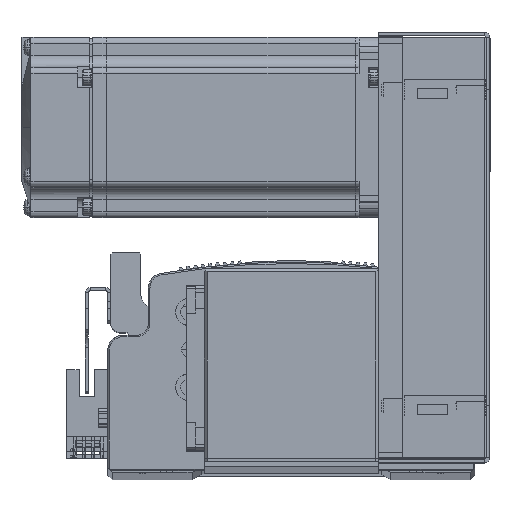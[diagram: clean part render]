
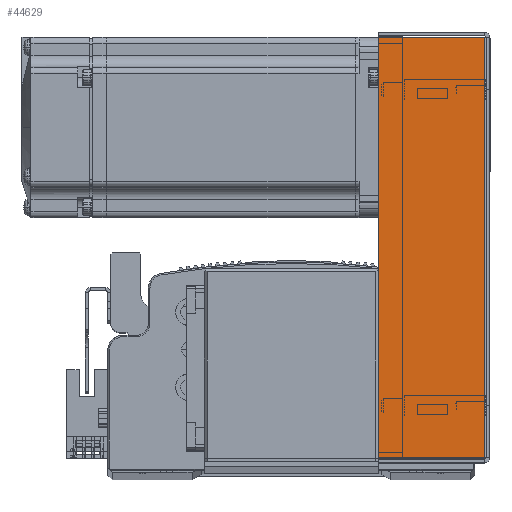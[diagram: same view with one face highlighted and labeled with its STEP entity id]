
A CAD part, top view. The second image highlights one B-rep face of the part: STEP entity #44629.
In plain terms, the highlighted planar face has unit normal (0, 0, 1) as drawn and (0, 0, -1) by its records, which use the part's own axes.
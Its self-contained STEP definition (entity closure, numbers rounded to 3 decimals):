
#5592 = AXIS2_PLACEMENT_3D ( 'NONE', #49359, #49379, #49383 ) ;
#10175 = VERTEX_POINT ( 'NONE', #12382 ) ;
#10212 = VERTEX_POINT ( 'NONE', #12456 ) ;
#10217 = VERTEX_POINT ( 'NONE', #12506 ) ;
#10284 = VERTEX_POINT ( 'NONE', #12454 ) ;
#12382 = CARTESIAN_POINT ( 'NONE',  ( 69.793, 36., -33.5 ) ) ;
#12454 = CARTESIAN_POINT ( 'NONE',  ( -69.793, 0.737, -33.5 ) ) ;
#12456 = CARTESIAN_POINT ( 'NONE',  ( -69.793, 36., -33.5 ) ) ;
#12506 = CARTESIAN_POINT ( 'NONE',  ( 69.793, 0.737, -33.5 ) ) ;
#17298 = LINE ( 'NONE', #18007, #17326 ) ;
#17320 = VECTOR ( 'NONE', #18090, 1000. ) ;
#17326 = VECTOR ( 'NONE', #18022, 1000. ) ;
#17329 = LINE ( 'NONE', #18033, #17320 ) ;
#17358 = LINE ( 'NONE', #18176, #17394 ) ;
#17368 = LINE ( 'NONE', #18195, #17378 ) ;
#17378 = VECTOR ( 'NONE', #18228, 1000. ) ;
#17394 = VECTOR ( 'NONE', #18194, 1000. ) ;
#18007 = CARTESIAN_POINT ( 'NONE',  ( -69.793, 0., -33.5 ) ) ;
#18022 = DIRECTION ( 'NONE',  ( 0., 1., 0. ) ) ;
#18033 = CARTESIAN_POINT ( 'NONE',  ( 69.793, 0., -33.5 ) ) ;
#18090 = DIRECTION ( 'NONE',  ( 0., 1., 0. ) ) ;
#18176 = CARTESIAN_POINT ( 'NONE',  ( 71.5, 0.737, -33.5 ) ) ;
#18194 = DIRECTION ( 'NONE',  ( 1., 0., 0. ) ) ;
#18195 = CARTESIAN_POINT ( 'NONE',  ( 0., 36., -33.5 ) ) ;
#18228 = DIRECTION ( 'NONE',  ( 1., 0., 0. ) ) ;
#31852 = FACE_OUTER_BOUND ( 'NONE', #66289, .T. ) ;
#44629 = ADVANCED_FACE ( 'NONE', ( #31852 ), #49357, .F. ) ;
#49357 = PLANE ( 'NONE',  #5592 ) ;
#49359 = CARTESIAN_POINT ( 'NONE',  ( 0., 0., -33.5 ) ) ;
#49379 = DIRECTION ( 'NONE',  ( 0., 0., 1. ) ) ;
#49383 = DIRECTION ( 'NONE',  ( 0., -1., 0. ) ) ;
#66289 = EDGE_LOOP ( 'NONE', ( #86129, #87704, #86155, #86194 ) ) ;
#76336 = EDGE_CURVE ( 'NONE', #10284, #10212, #17298, .T. ) ;
#76354 = EDGE_CURVE ( 'NONE', #10217, #10175, #17329, .T. ) ;
#76380 = EDGE_CURVE ( 'NONE', #10284, #10217, #17358, .T. ) ;
#76383 = EDGE_CURVE ( 'NONE', #10212, #10175, #17368, .T. ) ;
#86129 = ORIENTED_EDGE ( 'NONE', *, *, #76380, .F. ) ;
#86155 = ORIENTED_EDGE ( 'NONE', *, *, #76383, .T. ) ;
#86194 = ORIENTED_EDGE ( 'NONE', *, *, #76354, .F. ) ;
#87704 = ORIENTED_EDGE ( 'NONE', *, *, #76336, .T. ) ;
